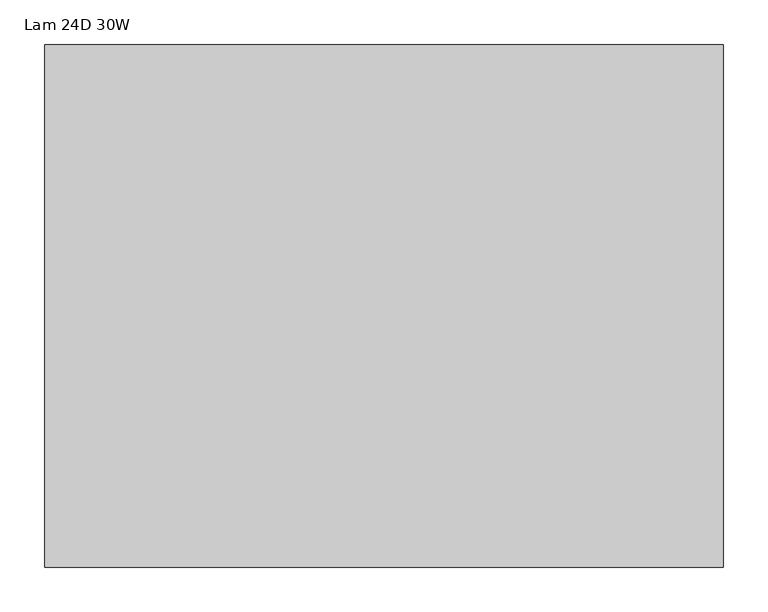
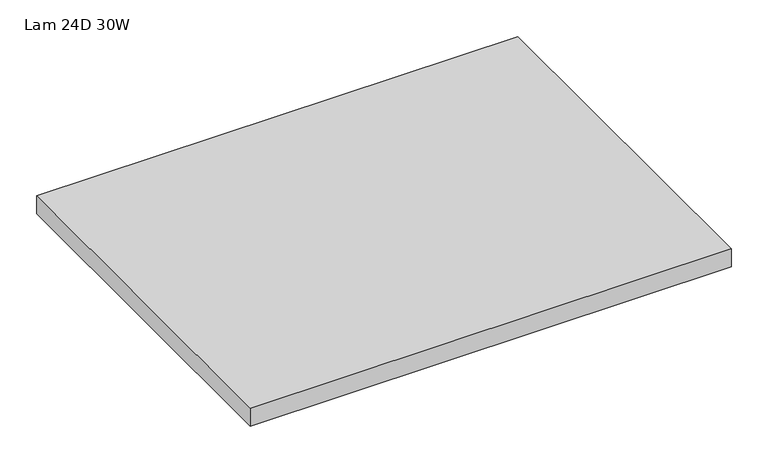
"""IFC4 building model written with IfcOpenShell, lengths in millimetres: furniture geometry, HermanMiller_Ethospace_EWS10_F_Sq-EdgeRectangularSurface_FrameAttached : Lam 24D 30W."""

from ifc_helpers import new_model, si_unit, frame, origin, place, context, project, spatial, polyline, outline, extrude, source, transform, mapped, element, save


def lam_24d_30w_89995873(model_context):
    return source(origin(), model_context, "Body", "SweptSolid", [
        extrude(outline(polyline([(296.3275996, 174.6914812), (-462.6244004, 174.6914812), (-462.6244004, 758.8914812), (296.3275996, 758.8914812), (296.3275996, 174.6914812)])), frame((0.0, 0.0, 706.7296), z_axis=(0.0, 0.0, 1.0), x_axis=(1.0, 0.0, 0.0)), (0.0, 0.0, 1.0), 29.8704),
    ])


if __name__ == "__main__":
    model = new_model("IFC4")
    model_context = context("Model", 3, world=origin())
    ifc_project = project(units=[si_unit("LENGTHUNIT", "METRE", prefix="MILLI")], contexts=[model_context])
    site = spatial("IfcSite", under=ifc_project)
    building = spatial("IfcBuilding", under=site)
    placement = place(None, origin())
    lam_24d_30w_shape = lam_24d_30w_89995873(model_context)
    element("IfcFurniture", 1, ObjectType="HermanMiller_Ethospace_EWS10_F_Sq-EdgeRectangularSurface_FrameAttached : Lam 24D 30W", at=placement, inside=building, context=model_context, shape_type="MappedRepresentation", body=[
        mapped(lam_24d_30w_shape, transform((0.0, 0.0, 0.0), x_axis=(1.0, 0.0, 0.0), y_axis=(0.0, 1.0, 0.0), z_axis=(0.0, 0.0, 1.0))),
    ])
    save(model, "model.ifc")
